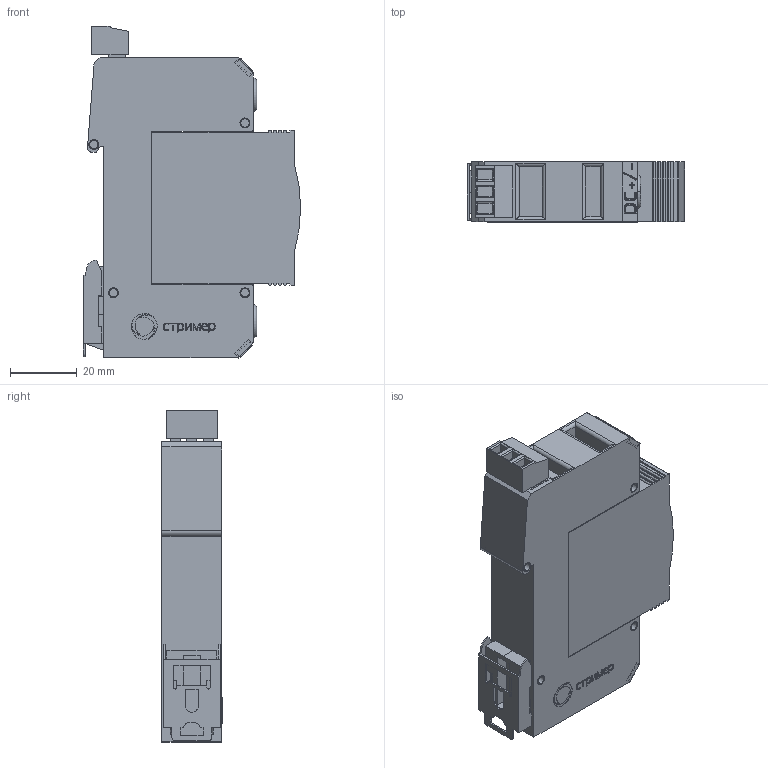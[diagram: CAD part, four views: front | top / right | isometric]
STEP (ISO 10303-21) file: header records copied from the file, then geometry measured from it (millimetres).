
FILE_DESCRIPTION(('TFLEX Exchange Step'),'2;1');
FILE_NAME('X2\041004400442\X0\.111_107.stp', '2022-07-15T15:58:09+03:00',('Pavel Oborin'),('Unknown organisation'),'TFLEX Exchange 2019.2','T-FLEX CAD','Unknown authorisation');
FILE_SCHEMA( ('AUTOMOTIVE_DESIGN { 1 0 10303 214 1 1 1 1 }') );
Length unit declared in the file: millimetre
Products named in the file (9): 0; Сигнализация:4; Сигнализация; Буква PE; Буква DC+-; Планка; ВНЕШНИЙ МОДУЛЬ 18; Корпус 18; Арт.111_107
Assembly tree (10 placements, depth 3):
  Арт.111_107
    0
    Сигнализация
      Сигнализация:4  x3
    Буква PE
    Буква DC+-
    Планка
    ВНЕШНИЙ МОДУЛЬ 18
    Корпус 18
Bounding box: 65.19 x 18.1 x 99.68 mm (x, y, z)
Volume: 85709.5 mm3; surface area: 25479.6 mm2
Topology: 40 solids, 40 shells, 725 faces, 1755 edges, 1129 vertices
Faces by surface type: plane 429, cylinder 177, bspline 109, torus 7, cone 3
Full cylindrical faces by diameter (mm): 1.6 x3, 3 x3
Entity records: 31526 total; most frequent: CARTESIAN_POINT 15086, ORIENTED_EDGE 3414, DIRECTION 3104, EDGE_CURVE 1707, VECTOR 1192, LINE 1192, VERTEX_POINT 1097, AXIS2_PLACEMENT_3D 956
